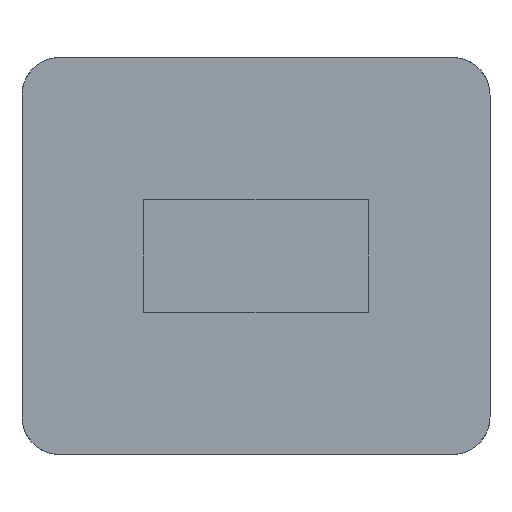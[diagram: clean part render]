
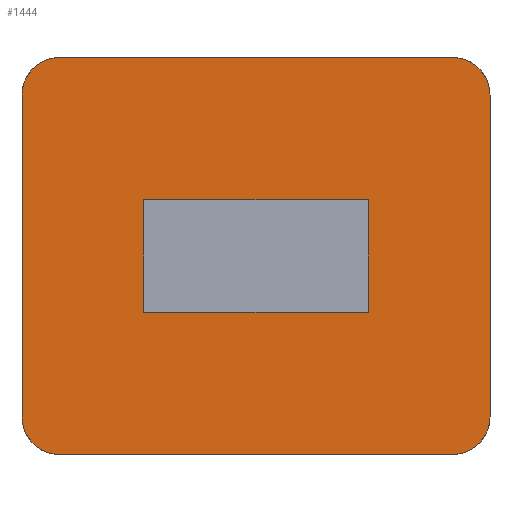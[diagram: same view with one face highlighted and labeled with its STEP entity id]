
A CAD part, front view. The second image highlights one B-rep face of the part: STEP entity #1444.
In plain terms, the highlighted planar face has unit normal (0, -1, 0).
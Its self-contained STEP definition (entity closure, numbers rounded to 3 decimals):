
#37 = CARTESIAN_POINT ( 'NONE',  ( -6.25, 0., -5.3 ) ) ;
#38 = DIRECTION ( 'NONE',  ( -1., 0., 0. ) ) ;
#45 = CARTESIAN_POINT ( 'NONE',  ( -6.25, 0., 5.3 ) ) ;
#46 = DIRECTION ( 'NONE',  ( 0., 0., 1. ) ) ;
#63 = CARTESIAN_POINT ( 'NONE',  ( 3., 0., -1.5 ) ) ;
#64 = DIRECTION ( 'NONE',  ( 0., 0., -1. ) ) ;
#65 = CARTESIAN_POINT ( 'NONE',  ( -3., 0., 1.5 ) ) ;
#66 = DIRECTION ( 'NONE',  ( 1., 0., 0. ) ) ;
#67 = CARTESIAN_POINT ( 'NONE',  ( -3., 0., -1.5 ) ) ;
#68 = DIRECTION ( 'NONE',  ( 0., 0., 1. ) ) ;
#69 = CARTESIAN_POINT ( 'NONE',  ( -5.25, 0., 4.3 ) ) ;
#70 = DIRECTION ( 'NONE',  ( 0., -1., 0. ) ) ;
#71 = DIRECTION ( 'NONE',  ( 0., 0., 1. ) ) ;
#72 = CARTESIAN_POINT ( 'NONE',  ( 5.25, 0., -4.3 ) ) ;
#73 = DIRECTION ( 'NONE',  ( 0., -1., 0. ) ) ;
#74 = DIRECTION ( 'NONE',  ( 0., 0., 1. ) ) ;
#75 = CARTESIAN_POINT ( 'NONE',  ( -5.25, 0., -4.3 ) ) ;
#76 = DIRECTION ( 'NONE',  ( 0., -1., 0. ) ) ;
#77 = DIRECTION ( 'NONE',  ( 0., 0., 1. ) ) ;
#78 = CARTESIAN_POINT ( 'NONE',  ( -3., 0., -1.5 ) ) ;
#79 = DIRECTION ( 'NONE',  ( -1., 0., 0. ) ) ;
#140 = CARTESIAN_POINT ( 'NONE',  ( 5.25, 0., 4.3 ) ) ;
#141 = DIRECTION ( 'NONE',  ( 0., -1., 0. ) ) ;
#142 = DIRECTION ( 'NONE',  ( 0., 0., 1. ) ) ;
#151 = CARTESIAN_POINT ( 'NONE',  ( -5.25, 0., -5.3 ) ) ;
#152 = CARTESIAN_POINT ( 'NONE',  ( 5.25, 0., -5.3 ) ) ;
#154 = CARTESIAN_POINT ( 'NONE',  ( -6.25, 0., 4.3 ) ) ;
#172 = CARTESIAN_POINT ( 'NONE',  ( -3., 0., 1.5 ) ) ;
#174 = CARTESIAN_POINT ( 'NONE',  ( 3., 0., 1.5 ) ) ;
#176 = CARTESIAN_POINT ( 'NONE',  ( -6.25, 0., -4.3 ) ) ;
#177 = CARTESIAN_POINT ( 'NONE',  ( 5.25, 0., 5.3 ) ) ;
#181 = CARTESIAN_POINT ( 'NONE',  ( -5.25, 0., 5.3 ) ) ;
#185 = CARTESIAN_POINT ( 'NONE',  ( 6.25, 0., 4.3 ) ) ;
#186 = CARTESIAN_POINT ( 'NONE',  ( 6.25, 0., -4.3 ) ) ;
#188 = CARTESIAN_POINT ( 'NONE',  ( -3., 0., -1.5 ) ) ;
#189 = CARTESIAN_POINT ( 'NONE',  ( 3., 0., -1.5 ) ) ;
#227 = PLANE ( 'NONE',  #938 ) ;
#228 = CARTESIAN_POINT ( 'NONE',  ( 6.25, 0., -5.3 ) ) ;
#229 = DIRECTION ( 'NONE',  ( 0., 1., 0. ) ) ;
#230 = DIRECTION ( 'NONE',  ( 0., 0., 1. ) ) ;
#414 = CARTESIAN_POINT ( 'NONE',  ( -6.25, 0., 5.3 ) ) ;
#415 = DIRECTION ( 'NONE',  ( 1., 0., 0. ) ) ;
#424 = CARTESIAN_POINT ( 'NONE',  ( 6.25, 0., 5.3 ) ) ;
#425 = DIRECTION ( 'NONE',  ( 0., 0., -1. ) ) ;
#573 = ORIENTED_EDGE ( 'NONE', *, *, #983, .T. ) ;
#574 = ORIENTED_EDGE ( 'NONE', *, *, #984, .T. ) ;
#575 = ORIENTED_EDGE ( 'NONE', *, *, #985, .T. ) ;
#576 = ORIENTED_EDGE ( 'NONE', *, *, #989, .T. ) ;
#599 = ORIENTED_EDGE ( 'NONE', *, *, #1517, .T. ) ;
#600 = ORIENTED_EDGE ( 'NONE', *, *, #1461, .F. ) ;
#601 = ORIENTED_EDGE ( 'NONE', *, *, #987, .T. ) ;
#602 = ORIENTED_EDGE ( 'NONE', *, *, #972, .F. ) ;
#603 = ORIENTED_EDGE ( 'NONE', *, *, #988, .T. ) ;
#604 = ORIENTED_EDGE ( 'NONE', *, *, #976, .F. ) ;
#605 = ORIENTED_EDGE ( 'NONE', *, *, #986, .T. ) ;
#606 = ORIENTED_EDGE ( 'NONE', *, *, #1456, .F. ) ;
#621 = EDGE_LOOP ( 'NONE', ( #606, #605, #604, #603, #602, #601, #600, #599 ) ) ;
#624 = EDGE_LOOP ( 'NONE', ( #576, #575, #574, #573 ) ) ;
#938 = AXIS2_PLACEMENT_3D ( 'NONE', #228, #229, #230 ) ;
#951 = AXIS2_PLACEMENT_3D ( 'NONE', #140, #141, #142 ) ;
#972 = EDGE_CURVE ( 'NONE', #1526, #1525, #1200, .T. ) ;
#976 = EDGE_CURVE ( 'NONE', #1550, #1528, #1377, .T. ) ;
#983 = EDGE_CURVE ( 'NONE', #1548, #1563, #1343, .T. ) ;
#984 = EDGE_CURVE ( 'NONE', #1546, #1548, #1342, .T. ) ;
#985 = EDGE_CURVE ( 'NONE', #1562, #1546, #1391, .T. ) ;
#986 = EDGE_CURVE ( 'NONE', #1555, #1528, #1393, .T. ) ;
#987 = EDGE_CURVE ( 'NONE', #1526, #1560, #1340, .T. ) ;
#988 = EDGE_CURVE ( 'NONE', #1550, #1525, #1309, .T. ) ;
#989 = EDGE_CURVE ( 'NONE', #1563, #1562, #1332, .T. ) ;
#1188 = AXIS2_PLACEMENT_3D ( 'NONE', #69, #70, #71 ) ;
#1189 = AXIS2_PLACEMENT_3D ( 'NONE', #72, #73, #74 ) ;
#1190 = AXIS2_PLACEMENT_3D ( 'NONE', #75, #76, #77 ) ;
#1199 = VECTOR ( 'NONE', #38, 1000. ) ;
#1200 = LINE ( 'NONE', #37, #1199 ) ;
#1225 = FACE_OUTER_BOUND ( 'NONE', #621, .T. ) ;
#1238 = VECTOR ( 'NONE', #79, 1000. ) ;
#1294 = CIRCLE ( 'NONE', #951, 1. ) ;
#1309 = CIRCLE ( 'NONE', #1190, 1. ) ;
#1313 = FACE_BOUND ( 'NONE', #624, .T. ) ;
#1332 = LINE ( 'NONE', #78, #1238 ) ;
#1340 = CIRCLE ( 'NONE', #1189, 1. ) ;
#1341 = VECTOR ( 'NONE', #46, 1000. ) ;
#1342 = LINE ( 'NONE', #65, #1399 ) ;
#1343 = LINE ( 'NONE', #63, #1344 ) ;
#1344 = VECTOR ( 'NONE', #64, 1000. ) ;
#1358 = VECTOR ( 'NONE', #425, 1000. ) ;
#1376 = LINE ( 'NONE', #424, #1358 ) ;
#1377 = LINE ( 'NONE', #45, #1341 ) ;
#1381 = VECTOR ( 'NONE', #415, 1000. ) ;
#1391 = LINE ( 'NONE', #67, #1401 ) ;
#1393 = CIRCLE ( 'NONE', #1188, 1. ) ;
#1399 = VECTOR ( 'NONE', #66, 1000. ) ;
#1401 = VECTOR ( 'NONE', #68, 1000. ) ;
#1412 = LINE ( 'NONE', #414, #1381 ) ;
#1444 = ADVANCED_FACE ( 'NONE', ( #1313, #1225 ), #227, .F. ) ;
#1456 = EDGE_CURVE ( 'NONE', #1555, #1551, #1412, .T. ) ;
#1461 = EDGE_CURVE ( 'NONE', #1559, #1560, #1376, .T. ) ;
#1517 = EDGE_CURVE ( 'NONE', #1559, #1551, #1294, .T. ) ;
#1525 = VERTEX_POINT ( 'NONE', #151 ) ;
#1526 = VERTEX_POINT ( 'NONE', #152 ) ;
#1528 = VERTEX_POINT ( 'NONE', #154 ) ;
#1546 = VERTEX_POINT ( 'NONE', #172 ) ;
#1548 = VERTEX_POINT ( 'NONE', #174 ) ;
#1550 = VERTEX_POINT ( 'NONE', #176 ) ;
#1551 = VERTEX_POINT ( 'NONE', #177 ) ;
#1555 = VERTEX_POINT ( 'NONE', #181 ) ;
#1559 = VERTEX_POINT ( 'NONE', #185 ) ;
#1560 = VERTEX_POINT ( 'NONE', #186 ) ;
#1562 = VERTEX_POINT ( 'NONE', #188 ) ;
#1563 = VERTEX_POINT ( 'NONE', #189 ) ;
